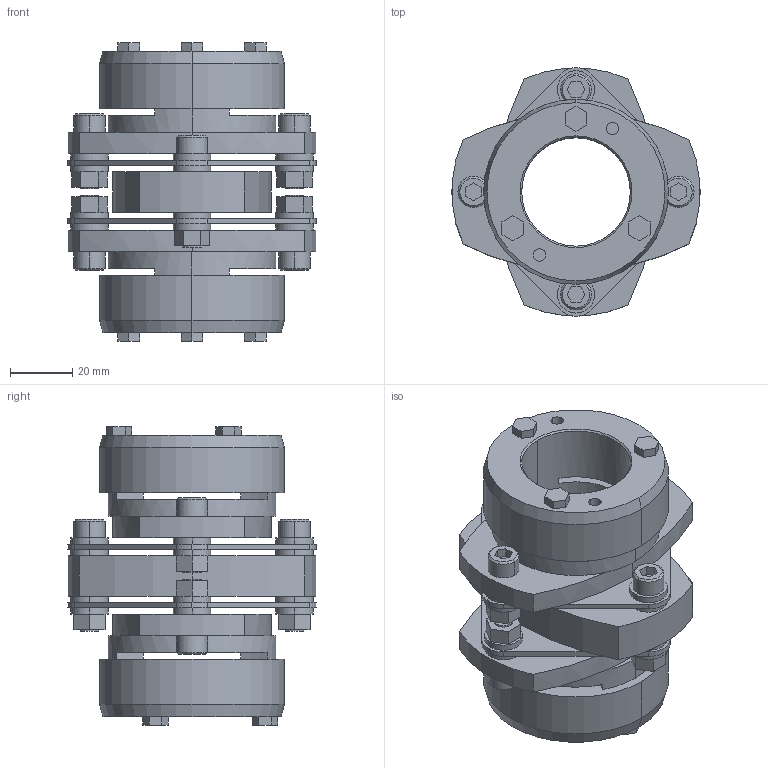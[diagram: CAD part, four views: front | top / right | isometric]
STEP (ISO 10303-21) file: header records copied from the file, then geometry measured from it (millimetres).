
FILE_DESCRIPTION((''),'2;1');
FILE_NAME('LCD-80T7-35×35.stp','2011-09-15T14:35:22',(''),(''),'AutoCAD STEP 2000i','AutoCAD 2000i',', , ');
FILE_SCHEMA(('CONFIG_CONTROL_DESIGN'));
Length unit declared in the file: millimetre
Products named in the file (14): LCD-80T7-35×35; 忣兜1; LC80T7-T035-1; LC80T7-T035; LC80T7-T032-1; LC80T7-T032; LC80T7-T030; LC80T7-T028; LC80T7-T024; LC80T7-T022; LC80T7-T019; LC80T7-T017-1; LC80T7-T017; LCD80-ITA
Assembly tree (13 placements, depth 2):
  LCD-80T7-35×35
    忣兜1
    LC80T7-T035-1
    LC80T7-T035
    LC80T7-T032-1
    LC80T7-T032
    LC80T7-T030
    LC80T7-T028
    LC80T7-T024
    LC80T7-T022
    LC80T7-T019
    LC80T7-T017-1
    LC80T7-T017
    LCD80-ITA
Bounding box: 80 x 79.95 x 96.1 mm (x, y, z)
Volume: 167638.3 mm3; surface area: 57930.2 mm2
Topology: 1 solids, 1 shells, 326 faces, 796 edges, 520 vertices
Faces by surface type: plane 182, cylinder 120, cone 24
Entity records: 9949 total; most frequent: DIRECTION 1772, CARTESIAN_POINT 1656, ORIENTED_EDGE 1592, EDGE_CURVE 796, AXIS2_PLACEMENT_3D 636, VERTEX_POINT 520, VECTOR 500, LINE 500
